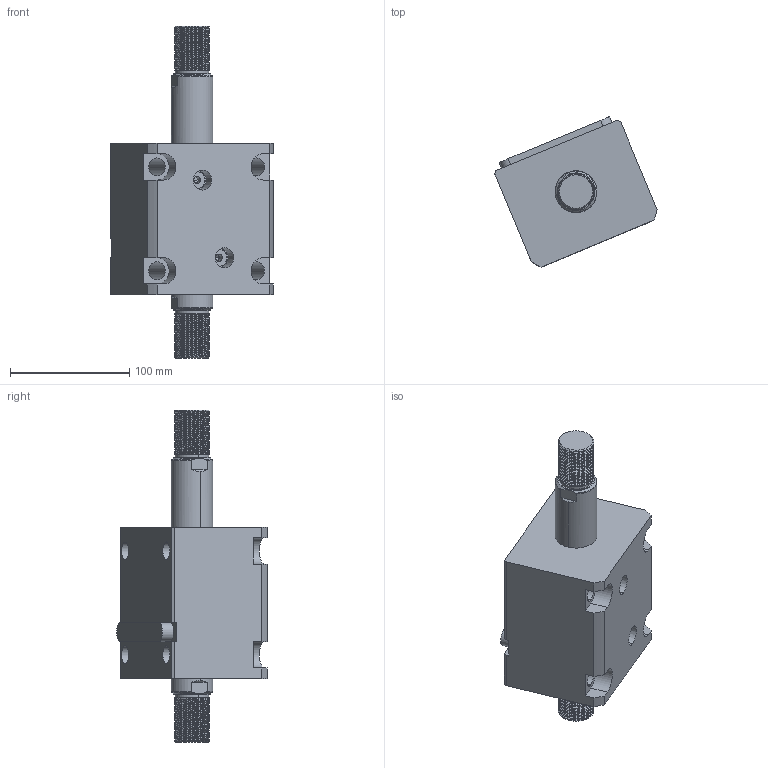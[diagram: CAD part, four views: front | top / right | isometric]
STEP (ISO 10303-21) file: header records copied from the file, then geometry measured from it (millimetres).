
FILE_DESCRIPTION (( 'STEP AP214' ), '1' );
FILE_NAME ('chtb-lw63x45w_asm.STEP', '2018-05-18T08:15:15', ( 'Windows' ), ( 'Microsoft' ), 'SwSTEP 2.0', 'SolidWorks 2015', '' );
FILE_SCHEMA (( 'AUTOMOTIVE_DESIGN' ));
Length unit declared in the file: millimetre
Products named in the file (5): CHTB-SW63X45WHSG; CHTB-LW63X45NBT; CHTB-LA63PJ; CHTB-63QG; chtb-lw63x45w_asm
Assembly tree (4 placements, depth 2):
  chtb-lw63x45w_asm
    CHTB-63QG
    CHTB-LA63PJ
    CHTB-LW63X45NBT
    CHTB-SW63X45WHSG
Bounding box: 135.77 x 126.06 x 278 mm (x, y, z)
Volume: 1232354.1 mm3; surface area: 176812.3 mm2
Topology: 4 solids, 4 shells, 306 faces, 889 edges, 601 vertices
Faces by surface type: cylinder 204, plane 58, bspline 16, cone 16, torus 12
Entity records: 27878 total; most frequent: CARTESIAN_POINT 20531, ORIENTED_EDGE 1770, DIRECTION 1228, EDGE_CURVE 885, VERTEX_POINT 601, AXIS2_PLACEMENT_3D 458, EDGE_LOOP 336, VECTOR 312
